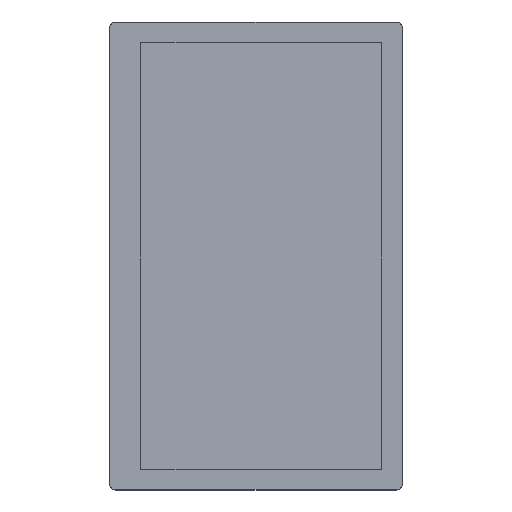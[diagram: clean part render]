
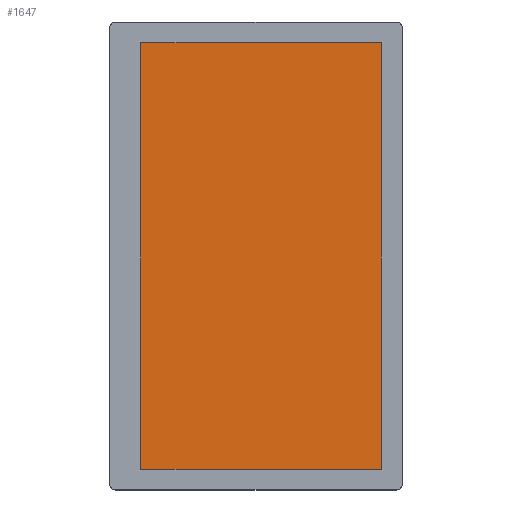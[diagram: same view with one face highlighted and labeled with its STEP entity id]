
A CAD part, top view. The second image highlights one B-rep face of the part: STEP entity #1647.
In plain terms, the highlighted planar face has unit normal (0, 0, 1).
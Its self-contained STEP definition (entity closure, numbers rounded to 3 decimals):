
#221=DIRECTION('',(0.,1.,0.));
#222=VECTOR('',#221,223.88);
#223=CARTESIAN_POINT('',(65.83,-111.94,-0.02));
#224=LINE('',#223,#222);
#228=DIRECTION('',(1.,0.,0.));
#229=VECTOR('',#228,126.26);
#230=CARTESIAN_POINT('',(-60.43,-111.94,-0.02));
#231=LINE('',#230,#229);
#235=DIRECTION('',(0.,-1.,0.));
#236=VECTOR('',#235,223.88);
#237=CARTESIAN_POINT('',(-60.43,111.94,-0.02));
#238=LINE('',#237,#236);
#242=DIRECTION('',(-1.,0.,0.));
#243=VECTOR('',#242,126.26);
#244=CARTESIAN_POINT('',(65.83,111.94,-0.02));
#245=LINE('',#244,#243);
#1315=CARTESIAN_POINT('',(65.83,-111.94,-0.02));
#1316=CARTESIAN_POINT('',(65.83,111.94,-0.02));
#1317=VERTEX_POINT('',#1315);
#1318=VERTEX_POINT('',#1316);
#1319=CARTESIAN_POINT('',(-60.43,111.94,-0.02));
#1320=VERTEX_POINT('',#1319);
#1321=CARTESIAN_POINT('',(-60.43,-111.94,-0.02));
#1322=VERTEX_POINT('',#1321);
#1636=CARTESIAN_POINT('',(0.,0.,-0.02));
#1637=DIRECTION('',(0.,0.,1.));
#1638=DIRECTION('',(0.,-1.,0.));
#1639=AXIS2_PLACEMENT_3D('',#1636,#1637,#1638);
#1640=PLANE('',#1639);
#1641=ORIENTED_EDGE('',*,*,#1588,.F.);
#1642=ORIENTED_EDGE('',*,*,#1603,.F.);
#1643=ORIENTED_EDGE('',*,*,#1617,.F.);
#1644=ORIENTED_EDGE('',*,*,#1630,.F.);
#1645=EDGE_LOOP('',(#1641,#1642,#1643,#1644));
#1646=FACE_OUTER_BOUND('',#1645,.F.);
#1647=ADVANCED_FACE('',(#1646),#1640,.T.);
#1588=EDGE_CURVE('',#1317,#1318,#224,.T.);
#1603=EDGE_CURVE('',#1322,#1317,#231,.T.);
#1617=EDGE_CURVE('',#1320,#1322,#238,.T.);
#1630=EDGE_CURVE('',#1318,#1320,#245,.T.);
